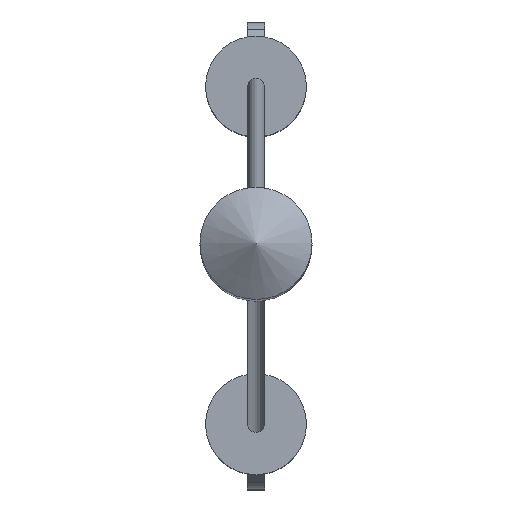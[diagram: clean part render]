
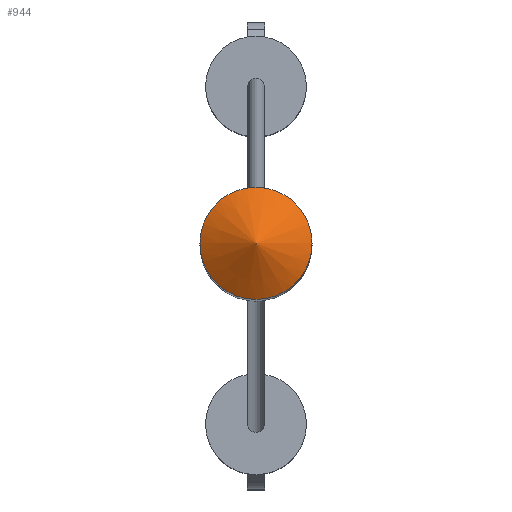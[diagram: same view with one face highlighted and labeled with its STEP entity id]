
A CAD part, top view. The second image highlights one B-rep face of the part: STEP entity #944.
In plain terms, the highlighted conical face has half-angle 60 degrees and reference radius 2.5 mm.
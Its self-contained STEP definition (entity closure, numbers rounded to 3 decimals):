
#192 = VERTEX_POINT ( 'NONE', #349 ) ;
#222 = AXIS2_PLACEMENT_3D ( 'NONE', #1813, #1090, #1073 ) ;
#349 = CARTESIAN_POINT ( 'NONE',  ( 2.5, -7.085, 57.424 ) ) ;
#373 = DIRECTION ( 'NONE',  ( 0., 0., 1. ) ) ;
#635 = FACE_OUTER_BOUND ( 'NONE', #1831, .T. ) ;
#879 = ORIENTED_EDGE ( 'NONE', *, *, #1552, .T. ) ;
#944 = ADVANCED_FACE ( 'NONE', ( #635 ), #1389, .T. ) ;
#1073 = DIRECTION ( 'NONE',  ( -1., 0., 0. ) ) ;
#1090 = DIRECTION ( 'NONE',  ( 0., 0., -1. ) ) ;
#1190 = AXIS2_PLACEMENT_3D ( 'NONE', #1271, #373, #1863 ) ;
#1271 = CARTESIAN_POINT ( 'NONE',  ( 0., -7.085, 57.424 ) ) ;
#1389 = CONICAL_SURFACE ( 'NONE', #222, 2.5, 1.047 ) ;
#1552 = EDGE_CURVE ( 'NONE', #192, #192, #1715, .T. ) ;
#1715 = CIRCLE ( 'NONE', #1190, 2.5 ) ;
#1813 = CARTESIAN_POINT ( 'NONE',  ( 0., -7.085, 57.424 ) ) ;
#1831 = EDGE_LOOP ( 'NONE', ( #879 ) ) ;
#1863 = DIRECTION ( 'NONE',  ( 1., 0., 0. ) ) ;
